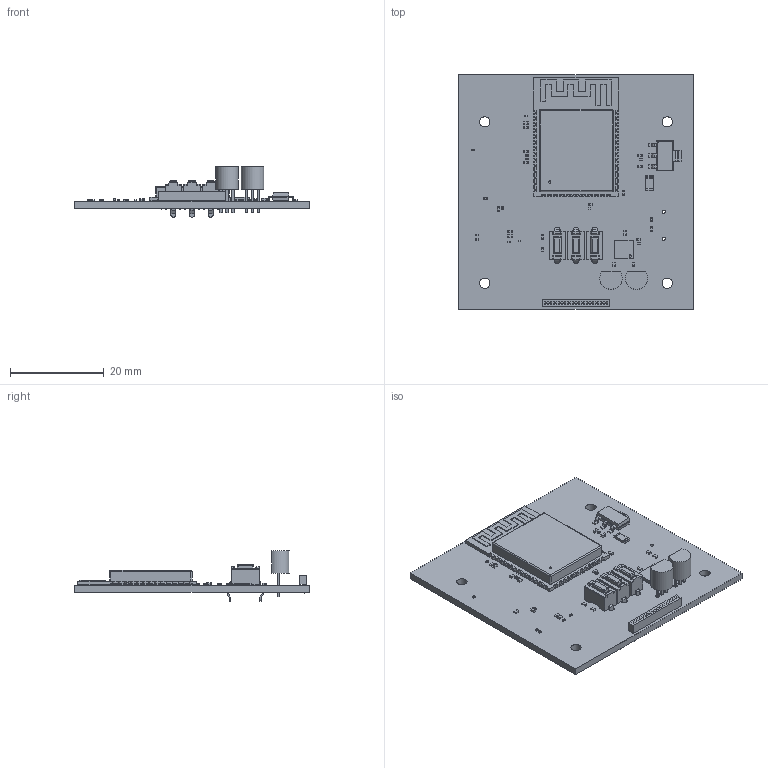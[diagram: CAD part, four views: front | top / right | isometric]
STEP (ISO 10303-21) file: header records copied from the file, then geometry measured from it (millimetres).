
FILE_DESCRIPTION(('KiCad electronic assembly'),'2;1');
FILE_NAME('Cinnagotchi.step','2026-10-18T21:59:26',('Pcbnew'),('Kicad'), 'Open CASCADE STEP processor 7.9','KiCad to STEP converter','Unknown' );
FILE_SCHEMA(('AUTOMOTIVE_DESIGN { 1 0 10303 214 1 1 1 1 }'));
Length unit declared in the file: millimetre
Products named in the file (22): Cinnagotchi 1; C_0201_0603Metric; C_0402_1005Metric; R_0402_1005Metric; TO-92_Inline; TO-92_Inline_Narrow; Fuse_1206_3216Metric; SOT-223; SW_PUSH_1P1T_6x3.5mm_H4.3_APEM_MJTP1243; PinSocket_1x14_P1.00mm_Vertical; QFN-24-1EP_4x4mm_P0.5mm_EP2.6x2.6mm; QFN-24-1EP_4x4mm_Pitch0.5mm; ESP32-S3-WROOM-1; Cin9151_PCB
Assembly tree (53 placements, depth 3):
  Cinnagotchi 1
    C_0201_0603Metric  x12
      C_0201_0603Metric
    C_0402_1005Metric  x5
      C_0402_1005Metric
    R_0402_1005Metric  x15
      R_0402_1005Metric
    TO-92_Inline  x2
      TO-92_Inline_Narrow
    Fuse_1206_3216Metric
      Fuse_1206_3216Metric
    SOT-223
      SOT-223
    SW_PUSH_1P1T_6x3.5mm_H4.3_APEM_MJTP1243  x3
      SW_PUSH_1P1T_6x3.5mm_H4.3_APEM_MJTP1243
    PinSocket_1x14_P1.00mm_Vertical
      PinSocket_1x14_P1.00mm_Vertical
    QFN-24-1EP_4x4mm_P0.5mm_EP2.6x2.6mm
      QFN-24-1EP_4x4mm_Pitch0.5mm
    ESP32-S3-WROOM-1
      ESP32-S3-WROOM-1
    Cin9151_PCB
Bounding box: 50.2 x 50.2 x 10.8 mm (x, y, z)
Volume: 5255.8 mm3; surface area: 8497.2 mm2
Topology: 94 solids, 94 shells, 3166 faces, 8018 edges, 5099 vertices
Faces by surface type: plane 2532, cylinder 586, sphere 28, bspline 20
Full cylindrical faces by diameter (mm): 0.2 x12, 0.5 x16, 0.65 x2, 0.75 x6, 1.3 x6, 2.2 x4
Entity records: 80715 total; most frequent: CARTESIAN_POINT 11160, ORIENTED_EDGE 10751, DIRECTION 10221, EDGE_CURVE 5376, LINE 4861, VECTOR 4861, VERTEX_POINT 3399, AXIS2_PLACEMENT_3D 2680
